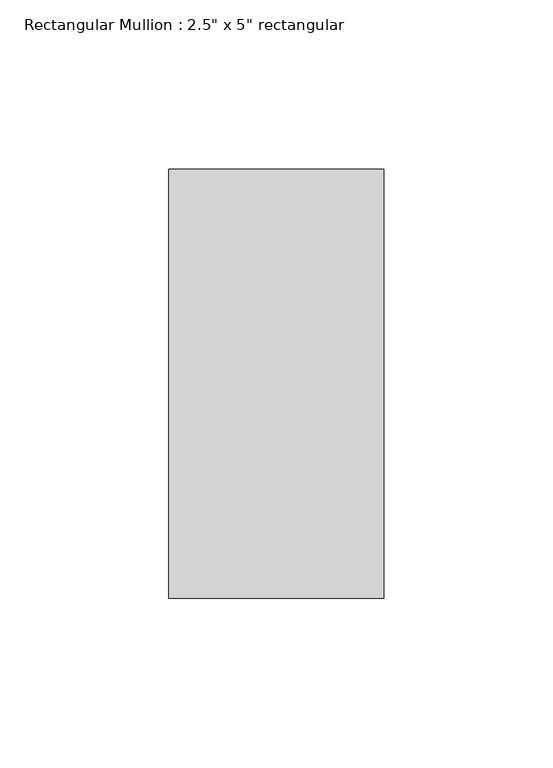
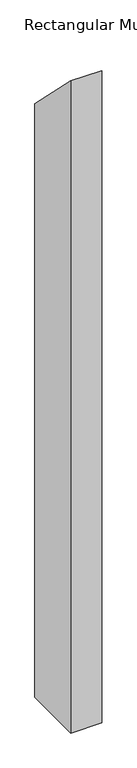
"""IFC4 building model written with IfcOpenShell, lengths in millimetres: member geometry."""

from ifc_helpers import new_model, si_unit, frame, origin, place, context, project, spatial, polyline, outline, extrude, source, transform, mapped, element, save


def member_dd124b4c(model_context):
    return source(origin(), model_context, "Body", "SweptSolid", [
        extrude(outline(polyline([(-63.5, 63.5), (63.5, -63.5), (63.5, -1346.2), (-63.5, -1346.2), (-63.5, 63.5)])), frame((-63.5, 0.0, 0.0), z_axis=(1.0, 0.0, 0.0), x_axis=(0.0, 1.0, 0.0)), (0.0, 0.0, 1.0), 63.5),
    ])


if __name__ == "__main__":
    model = new_model("IFC4")
    model_context = context("Model", 3, world=origin())
    ifc_project = project(units=[si_unit("LENGTHUNIT", "METRE", prefix="MILLI")], contexts=[model_context])
    site = spatial("IfcSite", under=ifc_project)
    building = spatial("IfcBuilding", under=site)
    placement = place(None, origin())
    member_shape = member_dd124b4c(model_context)
    element("IfcMember", 1, ObjectType="Rectangular Mullion : 2.5\" x 5\" rectangular", at=placement, inside=building, context=model_context, shape_type="MappedRepresentation", body=[
        mapped(member_shape, transform((0.0, 0.0, 0.0), x_axis=(1.0, 0.0, 0.0), y_axis=(0.0, 1.0, 0.0), z_axis=(0.0, 0.0, 1.0))),
    ])
    save(model, "model.ifc")
